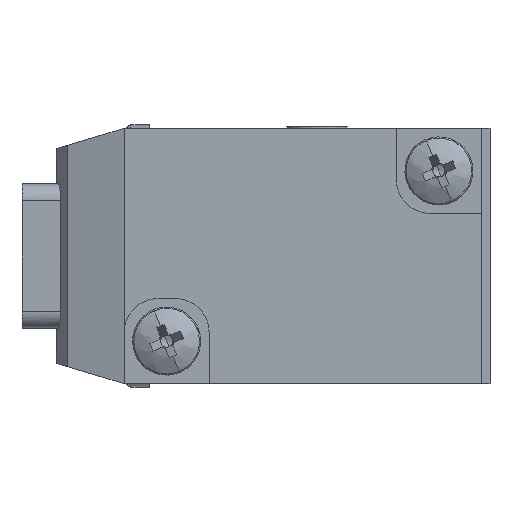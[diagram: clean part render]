
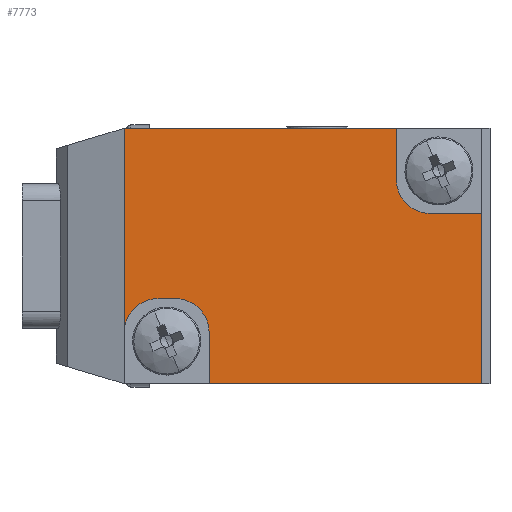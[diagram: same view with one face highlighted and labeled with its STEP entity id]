
A CAD part, left-side view. The second image highlights one B-rep face of the part: STEP entity #7773.
In plain terms, the highlighted planar face has unit normal (-1, 0, 0) as drawn and (1, 0, 0) by its records, which use the part's own axes.
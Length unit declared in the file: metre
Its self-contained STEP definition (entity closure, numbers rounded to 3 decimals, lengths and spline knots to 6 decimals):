
#6 = VERTEX_POINT ( 'NONE', #7807 ) ;
#100 = AXIS2_PLACEMENT_3D ( 'NONE', #9469, #4952, #442 ) ;
#323 = ORIENTED_EDGE ( 'NONE', *, *, #2536, .F. ) ;
#338 = DIRECTION ( 'NONE',  ( 1., 0., 0. ) ) ;
#420 = LINE ( 'NONE', #7258, #1976 ) ;
#442 = DIRECTION ( 'NONE',  ( 0., 0., 1. ) ) ;
#516 = LINE ( 'NONE', #5843, #2298 ) ;
#564 = ORIENTED_EDGE ( 'NONE', *, *, #9451, .F. ) ;
#624 = DIRECTION ( 'NONE',  ( 0., 0., 1. ) ) ;
#629 = EDGE_CURVE ( 'NONE', #2865, #5276, #420, .T. ) ;
#1034 = CIRCLE ( 'NONE', #4605, 0.002 ) ;
#1215 = EDGE_CURVE ( 'NONE', #2013, #2303, #7486, .T. ) ;
#1224 = ORIENTED_EDGE ( 'NONE', *, *, #1912, .F. ) ;
#1235 = CARTESIAN_POINT ( 'NONE',  ( 0.01825, 0.0035, 0.0045 ) ) ;
#1440 = AXIS2_PLACEMENT_3D ( 'NONE', #4373, #5147, #624 ) ;
#1459 = VERTEX_POINT ( 'NONE', #1925 ) ;
#1522 = VERTEX_POINT ( 'NONE', #2512 ) ;
#1531 = CARTESIAN_POINT ( 'NONE',  ( 0.01825, 0.0085, -0.0075 ) ) ;
#1547 = VECTOR ( 'NONE', #4452, 1. ) ;
#1851 = VERTEX_POINT ( 'NONE', #1531 ) ;
#1912 = EDGE_CURVE ( 'NONE', #8878, #1459, #1034, .T. ) ;
#1925 = CARTESIAN_POINT ( 'NONE',  ( 0.01825, -0.0095, -0.0025 ) ) ;
#1976 = VECTOR ( 'NONE', #7269, 1. ) ;
#1986 = ORIENTED_EDGE ( 'NONE', *, *, #2896, .F. ) ;
#2013 = VERTEX_POINT ( 'NONE', #3679 ) ;
#2298 = VECTOR ( 'NONE', #5829, 1. ) ;
#2303 = VERTEX_POINT ( 'NONE', #6392 ) ;
#2329 = ORIENTED_EDGE ( 'NONE', *, *, #5749, .T. ) ;
#2405 = CARTESIAN_POINT ( 'NONE',  ( 0.01825, -0.0095, -0.0045 ) ) ;
#2429 = DIRECTION ( 'NONE',  ( 1., 0., 0. ) ) ;
#2431 = CARTESIAN_POINT ( 'NONE',  ( 0.01825, -0.011, -0.0025 ) ) ;
#2443 = DIRECTION ( 'NONE',  ( 0., 1., 0. ) ) ;
#2446 = DIRECTION ( 'NONE',  ( 0., 0., 1. ) ) ;
#2512 = CARTESIAN_POINT ( 'NONE',  ( 0.01825, 0.0055, 0.0025 ) ) ;
#2536 = EDGE_CURVE ( 'NONE', #1851, #6, #4777, .T. ) ;
#2854 = FACE_OUTER_BOUND ( 'NONE', #7376, .T. ) ;
#2865 = VERTEX_POINT ( 'NONE', #6850 ) ;
#2896 = EDGE_CURVE ( 'NONE', #2303, #1851, #7453, .T. ) ;
#3019 = ORIENTED_EDGE ( 'NONE', *, *, #629, .T. ) ;
#3095 = LINE ( 'NONE', #5414, #8615 ) ;
#3576 = EDGE_CURVE ( 'NONE', #2865, #7255, #516, .T. ) ;
#3679 = CARTESIAN_POINT ( 'NONE',  ( 0.01825, 0.0065, 0.0025 ) ) ;
#3785 = LINE ( 'NONE', #2431, #9584 ) ;
#4283 = CARTESIAN_POINT ( 'NONE',  ( 0.01825, -0.002, 0.0025 ) ) ;
#4373 = CARTESIAN_POINT ( 'NONE',  ( 0.01825, -0.0125, -0.0075 ) ) ;
#4408 = ORIENTED_EDGE ( 'NONE', *, *, #1215, .F. ) ;
#4452 = DIRECTION ( 'NONE',  ( 0., 1., 0. ) ) ;
#4605 = AXIS2_PLACEMENT_3D ( 'NONE', #2405, #2429, #2446 ) ;
#4684 = DIRECTION ( 'NONE',  ( 0., 0., 1. ) ) ;
#4777 = LINE ( 'NONE', #8877, #6778 ) ;
#4813 = CIRCLE ( 'NONE', #100, 0.002 ) ;
#4916 = EDGE_CURVE ( 'NONE', #8878, #6, #3095, .T. ) ;
#4952 = DIRECTION ( 'NONE',  ( 1., 0., 0. ) ) ;
#5147 = DIRECTION ( 'NONE',  ( -1., 0., 0. ) ) ;
#5180 = CARTESIAN_POINT ( 'NONE',  ( 0.01825, 0.0065, 0.0045 ) ) ;
#5276 = VERTEX_POINT ( 'NONE', #9752 ) ;
#5298 = LINE ( 'NONE', #4283, #1547 ) ;
#5302 = CARTESIAN_POINT ( 'NONE',  ( 0.01825, -0.0075, -0.0045 ) ) ;
#5378 = ORIENTED_EDGE ( 'NONE', *, *, #4916, .T. ) ;
#5414 = CARTESIAN_POINT ( 'NONE',  ( 0.01825, -0.0075, -0.006 ) ) ;
#5513 = DIRECTION ( 'NONE',  ( 0., 0., -1. ) ) ;
#5749 = EDGE_CURVE ( 'NONE', #8542, #1459, #3785, .T. ) ;
#5829 = DIRECTION ( 'NONE',  ( 0., 0., -1. ) ) ;
#5843 = CARTESIAN_POINT ( 'NONE',  ( 0.01825, 0.0035, 0. ) ) ;
#5909 = VECTOR ( 'NONE', #8288, 1. ) ;
#5978 = ORIENTED_EDGE ( 'NONE', *, *, #3576, .F. ) ;
#6029 = CARTESIAN_POINT ( 'NONE',  ( 0.01825, -0.0125, -0.0025 ) ) ;
#6392 = CARTESIAN_POINT ( 'NONE',  ( 0.01825, 0.0085, 0.0045 ) ) ;
#6584 = ORIENTED_EDGE ( 'NONE', *, *, #7418, .F. ) ;
#6778 = VECTOR ( 'NONE', #8870, 1. ) ;
#6850 = CARTESIAN_POINT ( 'NONE',  ( 0.01825, 0.0035, 0.0075 ) ) ;
#6953 = CARTESIAN_POINT ( 'NONE',  ( 0.01825, -0.0125, 0. ) ) ;
#7255 = VERTEX_POINT ( 'NONE', #1235 ) ;
#7258 = CARTESIAN_POINT ( 'NONE',  ( 0.01825, -0.002, 0.0075 ) ) ;
#7269 = DIRECTION ( 'NONE',  ( 0., -1., 0. ) ) ;
#7376 = EDGE_LOOP ( 'NONE', ( #2329, #1224, #5378, #323, #1986, #4408, #6584, #564, #5978, #3019, #8698 ) ) ;
#7418 = EDGE_CURVE ( 'NONE', #1522, #2013, #5298, .T. ) ;
#7453 = LINE ( 'NONE', #8318, #5909 ) ;
#7486 = CIRCLE ( 'NONE', #9731, 0.002 ) ;
#7773 = ADVANCED_FACE ( 'NONE', ( #2854 ), #8888, .F. ) ;
#7807 = CARTESIAN_POINT ( 'NONE',  ( 0.01825, -0.0075, -0.0075 ) ) ;
#8236 = LINE ( 'NONE', #6953, #8708 ) ;
#8288 = DIRECTION ( 'NONE',  ( 0., 0., -1. ) ) ;
#8318 = CARTESIAN_POINT ( 'NONE',  ( 0.01825, 0.0085, 0. ) ) ;
#8461 = DIRECTION ( 'NONE',  ( 0., 0., -1. ) ) ;
#8542 = VERTEX_POINT ( 'NONE', #6029 ) ;
#8615 = VECTOR ( 'NONE', #5513, 1. ) ;
#8647 = EDGE_CURVE ( 'NONE', #5276, #8542, #8236, .T. ) ;
#8698 = ORIENTED_EDGE ( 'NONE', *, *, #8647, .T. ) ;
#8708 = VECTOR ( 'NONE', #8461, 1. ) ;
#8870 = DIRECTION ( 'NONE',  ( 0., -1., 0. ) ) ;
#8877 = CARTESIAN_POINT ( 'NONE',  ( 0.01825, -0.002, -0.0075 ) ) ;
#8878 = VERTEX_POINT ( 'NONE', #5302 ) ;
#8888 = PLANE ( 'NONE',  #1440 ) ;
#9451 = EDGE_CURVE ( 'NONE', #7255, #1522, #4813, .T. ) ;
#9469 = CARTESIAN_POINT ( 'NONE',  ( 0.01825, 0.0055, 0.0045 ) ) ;
#9584 = VECTOR ( 'NONE', #2443, 1. ) ;
#9731 = AXIS2_PLACEMENT_3D ( 'NONE', #5180, #338, #4684 ) ;
#9752 = CARTESIAN_POINT ( 'NONE',  ( 0.01825, -0.0125, 0.0075 ) ) ;
